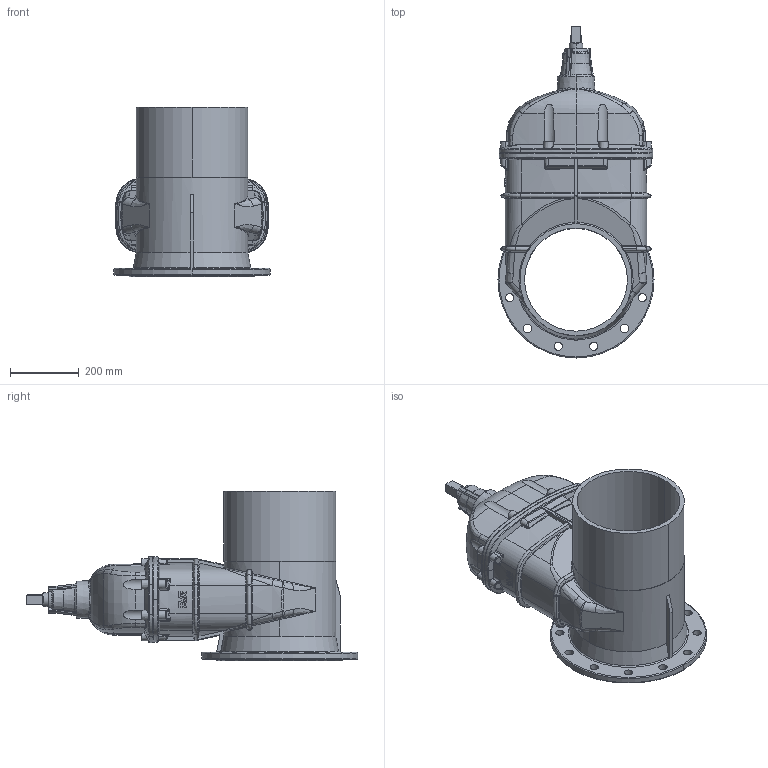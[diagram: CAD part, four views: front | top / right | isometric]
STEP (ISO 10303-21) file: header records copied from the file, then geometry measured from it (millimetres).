
FILE_DESCRIPTION (( 'STEP AP203' ), '1' );
FILE_NAME ('O_12_51_DN300_AA1_step.step', '2015-10-23T07:53:12', ( 'Windows User' ), ( 'AVK' ), 'SwSTEP 2.0', 'SolidWorks 2012', '' );
FILE_SCHEMA (( 'CONFIG_CONTROL_DESIGN' ));
Length unit declared in the file: millimetre
Products named in the file (1): O_12_51_DN300_AA1_step
Bounding box: 455 x 967.4 x 494 mm (x, y, z)
Volume: 41774440 mm3; surface area: 1742411.1 mm2
Topology: 1 solids, 1 shells, 780 faces, 1973 edges, 1193 vertices
Faces by surface type: bspline 299, cylinder 163, plane 120, cone 110, torus 88
Entity records: 41084 total; most frequent: CARTESIAN_POINT 25033, ORIENTED_EDGE 3922, DIRECTION 2677, EDGE_CURVE 1961, VERTEX_POINT 1193, AXIS2_PLACEMENT_3D 1153, EDGE_LOOP 816, ADVANCED_FACE 780
